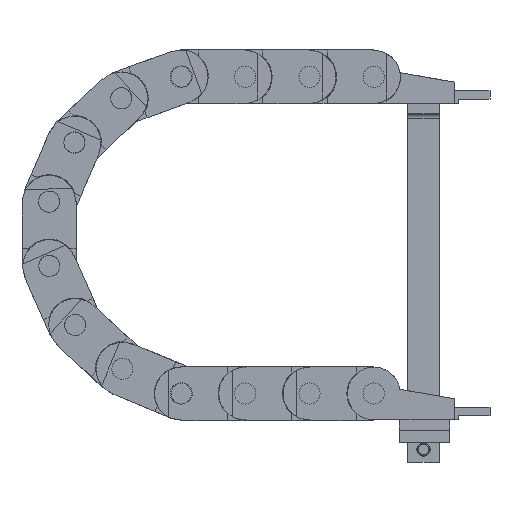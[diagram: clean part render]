
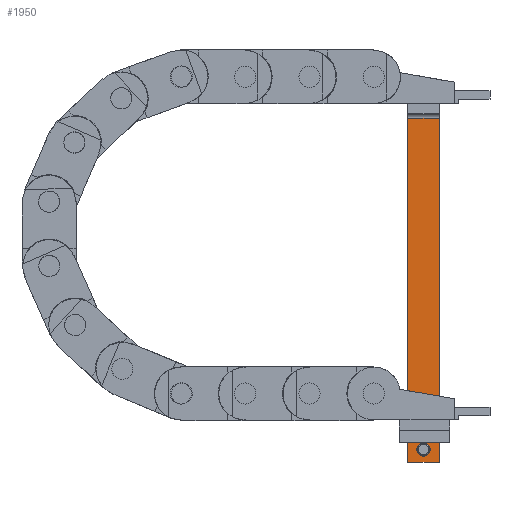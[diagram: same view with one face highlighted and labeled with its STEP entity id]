
A CAD part, front view. The second image highlights one B-rep face of the part: STEP entity #1950.
In plain terms, the highlighted planar face has unit normal (0, -1, 0).
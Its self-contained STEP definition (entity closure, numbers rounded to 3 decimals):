
#1950 = ADVANCED_FACE( '', ( #4661, #4662, #4663 ), #4664, .T. );
#4661 = FACE_OUTER_BOUND( '', #8269, .T. );
#4662 = FACE_BOUND( '', #8270, .T. );
#4663 = FACE_BOUND( '', #8271, .T. );
#4664 = PLANE( '', #8272 );
#8269 = EDGE_LOOP( '', ( #13964, #13965, #13966, #13967 ) );
#8270 = EDGE_LOOP( '', ( #13968 ) );
#8271 = EDGE_LOOP( '', ( #13969 ) );
#8272 = AXIS2_PLACEMENT_3D( '', #13970, #13971, #13972 );
#13964 = ORIENTED_EDGE( '', *, *, #23631, .T. );
#13965 = ORIENTED_EDGE( '', *, *, #22646, .T. );
#13966 = ORIENTED_EDGE( '', *, *, #23593, .F. );
#13967 = ORIENTED_EDGE( '', *, *, #22630, .T. );
#13968 = ORIENTED_EDGE( '', *, *, #23632, .F. );
#13969 = ORIENTED_EDGE( '', *, *, #23633, .F. );
#13970 = CARTESIAN_POINT( '', ( 35., 88.9, -29.7 ) );
#13971 = DIRECTION( '', ( 0., -1., 0. ) );
#13972 = DIRECTION( '', ( 0., 0., -1. ) );
#22630 = EDGE_CURVE( '', #27694, #27692, #27695, .T. );
#22646 = EDGE_CURVE( '', #27720, #27718, #27721, .T. );
#23593 = EDGE_CURVE( '', #27694, #27718, #29287, .F. );
#23631 = EDGE_CURVE( '', #27692, #27720, #29345, .F. );
#23632 = EDGE_CURVE( '', #29346, #29346, #29347, .T. );
#23633 = EDGE_CURVE( '', #29348, #29348, #29349, .T. );
#27692 = VERTEX_POINT( '', #34742 );
#27694 = VERTEX_POINT( '', #34745 );
#27695 = LINE( '', #34746, #34747 );
#27718 = VERTEX_POINT( '', #34776 );
#27720 = VERTEX_POINT( '', #34778 );
#27721 = LINE( '', #34779, #34780 );
#29287 = LINE( '', #36946, #36947 );
#29345 = LINE( '', #37028, #37029 );
#29346 = VERTEX_POINT( '', #37030 );
#29347 = CIRCLE( '', #37031, 3.25 );
#29348 = VERTEX_POINT( '', #37032 );
#29349 = CIRCLE( '', #37033, 3.25 );
#34742 = CARTESIAN_POINT( '', ( 50., 88.9, -29.7 ) );
#34745 = CARTESIAN_POINT( '', ( 35., 88.9, -29.7 ) );
#34746 = CARTESIAN_POINT( '', ( 35., 88.9, -29.7 ) );
#34747 = VECTOR( '', #42548, 1000. );
#34776 = CARTESIAN_POINT( '', ( 35., 88.9, 133.3 ) );
#34778 = CARTESIAN_POINT( '', ( 50., 88.9, 133.3 ) );
#34779 = CARTESIAN_POINT( '', ( 35., 88.9, 133.3 ) );
#34780 = VECTOR( '', #42570, 1000. );
#36946 = CARTESIAN_POINT( '', ( 35., 88.9, 135.3 ) );
#36947 = VECTOR( '', #43693, 1000. );
#37028 = CARTESIAN_POINT( '', ( 50., 88.9, -29.7 ) );
#37029 = VECTOR( '', #43735, 1000. );
#37030 = CARTESIAN_POINT( '', ( 45.75, 88.9, -23.7 ) );
#37031 = AXIS2_PLACEMENT_3D( '', #43736, #43737, #43738 );
#37032 = CARTESIAN_POINT( '', ( 45.75, 88.9, -10.7 ) );
#37033 = AXIS2_PLACEMENT_3D( '', #43739, #43740, #43741 );
#42548 = DIRECTION( '', ( 1., 0., 0. ) );
#42570 = DIRECTION( '', ( -1., 0., 0. ) );
#43693 = DIRECTION( '', ( 0., 0., -1. ) );
#43735 = DIRECTION( '', ( 0., 0., -1. ) );
#43736 = CARTESIAN_POINT( '', ( 42.5, 88.9, -23.7 ) );
#43737 = DIRECTION( '', ( 0., -1., 0. ) );
#43738 = DIRECTION( '', ( 1., 0., 0. ) );
#43739 = CARTESIAN_POINT( '', ( 42.5, 88.9, -10.7 ) );
#43740 = DIRECTION( '', ( 0., -1., 0. ) );
#43741 = DIRECTION( '', ( 1., 0., 0. ) );
